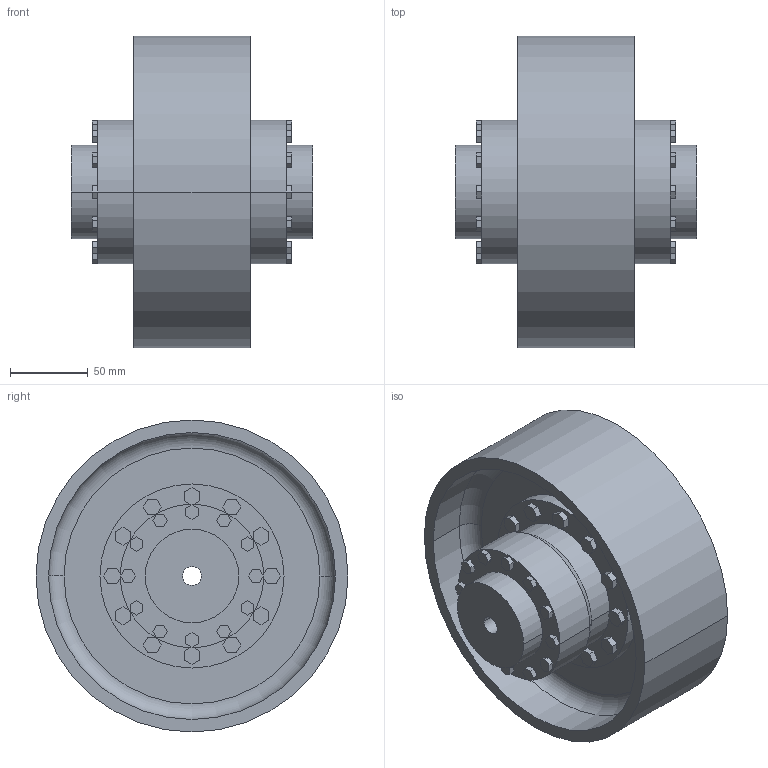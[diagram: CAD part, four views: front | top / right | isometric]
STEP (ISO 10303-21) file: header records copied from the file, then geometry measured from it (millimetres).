
FILE_DESCRIPTION((''),'2;1');
FILE_NAME('A19735400-0_ASM','2019-05-23T',('AB_Roschiwal'),('RENK AG'),'PRO/ENGINEER BY PARAMETRIC TECHNOLOGY CORPORATION, 2015440','PRO/ENGINEER BY PARAMETRIC TECHNOLOGY CORPORATION, 2015440','');
FILE_SCHEMA(('CONFIG_CONTROL_DESIGN'));
Length unit declared in the file: millimetre
Products named in the file (4): SBKD38_GEHAEUSE; SBKD38_NABE; SBKD38_BREMSSCHEIBE; A19735400-0_ASM
Assembly tree (4 placements, depth 2):
  A19735400-0_ASM
    SBKD38_GEHAEUSE
    SBKD38_NABE  x2
    SBKD38_BREMSSCHEIBE
Bounding box: 155 x 200 x 200 mm (x, y, z)
Volume: 1246730.1 mm3; surface area: 285164.9 mm2
Topology: 4 solids, 4 shells, 474 faces, 1164 edges, 772 vertices
Faces by surface type: plane 370, cylinder 96, cone 4, torus 4
Entity records: 13708 total; most frequent: CARTESIAN_POINT 2366, ORIENTED_EDGE 2280, DIRECTION 2264, EDGE_CURVE 1140, VECTOR 956, LINE 956, VERTEX_POINT 756, AXIS2_PLACEMENT_3D 654
